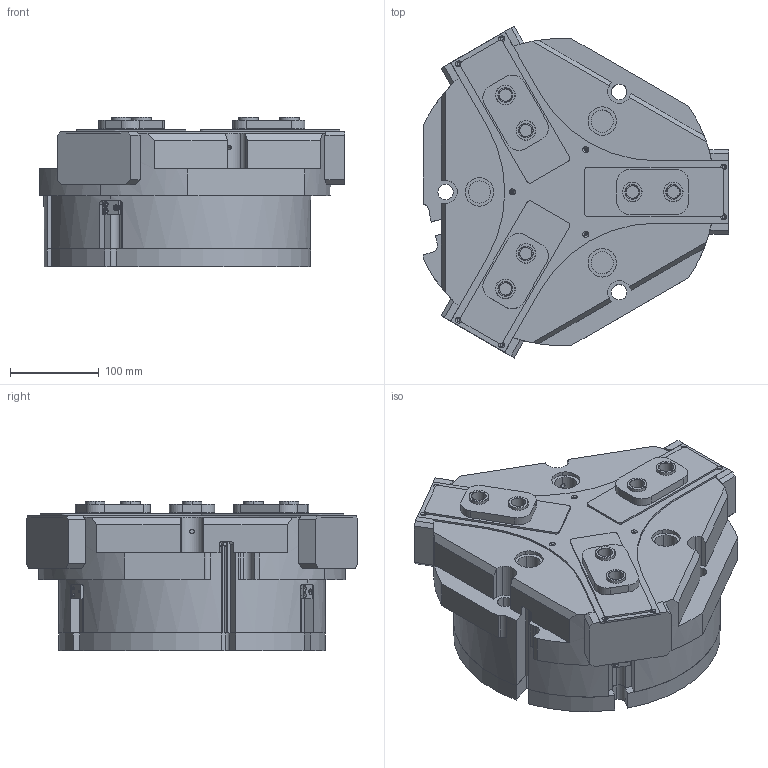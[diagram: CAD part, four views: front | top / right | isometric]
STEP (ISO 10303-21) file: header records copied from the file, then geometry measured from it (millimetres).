
FILE_DESCRIPTION (( 'STEP AP214' ), '1' );
FILE_NAME ('FCT300A-1-SD.STEP', '2021-09-17T11:34:34', ( 'DEEP' ), ( 'Microsoft' ), 'SwSTEP 2.0', 'SolidWorks 2016', '' );
FILE_SCHEMA (( 'AUTOMOTIVE_DESIGN' ));
Length unit declared in the file: millimetre
Products named in the file (35): FCT 300A-1 - SD-004a; FCT 300A-1 - SD-003a; FPT-000-1-01-003a; FCT 300A-1 - SDa; FCT 300A-1 - SD-002a; FCT 300A-1 - SD-001a; FCT300A-1-01-008a; FCT300A-1-01-002a; FCT300A-1-01-001a; 9瘍隅弇杶-SDa; FCT300A-1-SD
Assembly tree (25 placements, depth 3):
  FCT 300A-1 - SD-004a
  FCT 300A-1 - SD-004a
  FCT 300A-1 - SD-003a
  FCT 300A-1 - SD-003a
  FCT 300A-1 - SD-004a
Bounding box: 343 x 373.13 x 168 mm (x, y, z)
Volume: 9025909.6 mm3; surface area: 918667.8 mm2
Topology: 24 solids, 24 shells, 982 faces, 2490 edges, 1577 vertices
Faces by surface type: plane 456, cylinder 402, cone 124
Entity records: 21470 total; most frequent: CARTESIAN_POINT 4437, DIRECTION 3396, ORIENTED_EDGE 3128, EDGE_CURVE 1564, AXIS2_PLACEMENT_3D 1246, VERTEX_POINT 1017, VECTOR 904, LINE 904
